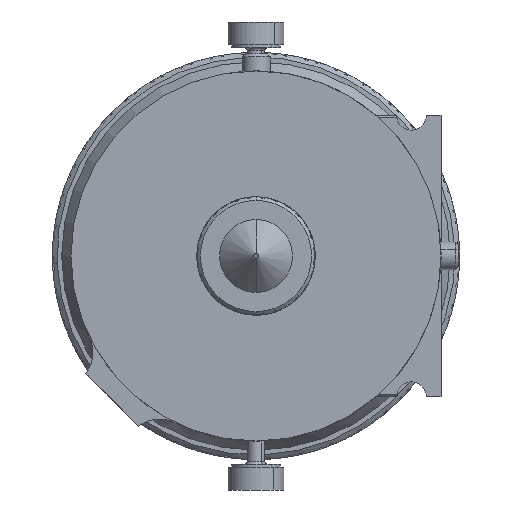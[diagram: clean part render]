
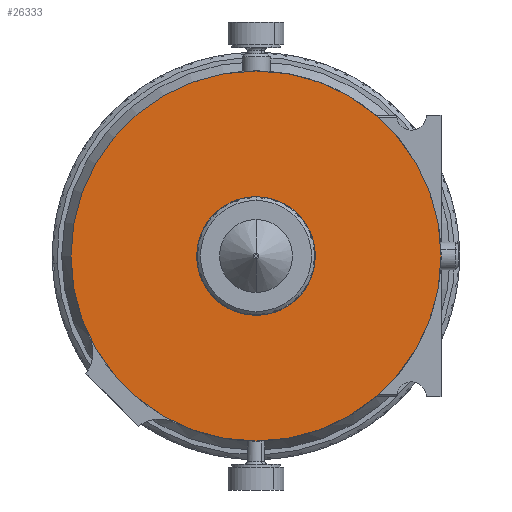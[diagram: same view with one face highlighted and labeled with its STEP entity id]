
A CAD part, front view. The second image highlights one B-rep face of the part: STEP entity #26333.
In plain terms, the highlighted planar face has unit normal (0, -1, 0).
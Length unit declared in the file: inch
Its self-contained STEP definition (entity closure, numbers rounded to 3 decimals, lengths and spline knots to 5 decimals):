
#1983 = ORIENTED_EDGE ( 'NONE', *, *, #30681, .F. ) ;
#2079 = AXIS2_PLACEMENT_3D ( 'NONE', #26689, #45398, #7988 ) ;
#3312 = DIRECTION ( 'NONE',  ( 0., 1., 0. ) ) ;
#3374 = EDGE_CURVE ( 'Defeatured_0_661+Defeatured_0_660+Defeatured_0_660+Defeatured_0_660', #8340, #10453, #29421, .T. ) ;
#5130 = ORIENTED_EDGE ( 'NONE', *, *, #49275, .F. ) ;
#5251 = DIRECTION ( 'NONE',  ( 0., 1., 0. ) ) ;
#7988 = DIRECTION ( 'NONE',  ( -1., 0., 0. ) ) ;
#8340 = VERTEX_POINT ( 'NONE', #34210 ) ;
#10453 = VERTEX_POINT ( 'NONE', #46867 ) ;
#12445 = CARTESIAN_POINT ( 'NONE',  ( -0.17263, -3.60611, 0. ) ) ;
#14300 = DIRECTION ( 'NONE',  ( 0., -1., 0. ) ) ;
#14547 = DIRECTION ( 'NONE',  ( -1., 0., 0. ) ) ;
#16909 = PLANE ( 'NONE',  #2079 ) ;
#17398 = EDGE_CURVE ( 'Defeatured_0_659+Defeatured_0_660+Defeatured_0_660+Defeatured_0_660', #29450, #19075, #27705, .T. ) ;
#19075 = VERTEX_POINT ( 'NONE', #23912 ) ;
#19356 = AXIS2_PLACEMENT_3D ( 'NONE', #12445, #3312, #26682 ) ;
#19706 = AXIS2_PLACEMENT_3D ( 'NONE', #23921, #5251, #14547 ) ;
#23912 = CARTESIAN_POINT ( 'NONE',  ( -0.17263, -3.60611, 0.3125 ) ) ;
#23921 = CARTESIAN_POINT ( 'NONE',  ( -0.17263, -3.60611, 0. ) ) ;
#24245 = DIRECTION ( 'NONE',  ( 0., 0., 1. ) ) ;
#26333 = ADVANCED_FACE ( 'Defeatured_0_660', ( #42522, #31609 ), #16909, .F. ) ;
#26682 = DIRECTION ( 'NONE',  ( -1., 0., 0. ) ) ;
#26689 = CARTESIAN_POINT ( 'NONE',  ( -0.17263, -3.60611, 0.7 ) ) ;
#27343 = EDGE_LOOP ( 'NONE', ( #1983, #54048 ) ) ;
#27374 = AXIS2_PLACEMENT_3D ( 'NONE', #42969, #47437, #24245 ) ;
#27705 = CIRCLE ( 'NONE', #27374, 0.3125 ) ;
#27766 = DIRECTION ( 'NONE',  ( 0., 0., 1. ) ) ;
#29421 = CIRCLE ( 'NONE', #19706, 1.25 ) ;
#29450 = VERTEX_POINT ( 'NONE', #40047 ) ;
#30681 = EDGE_CURVE ( 'Defeatured_0_659+Defeatured_0_660+Defeatured_0_660+Defeatured_0_660', #19075, #29450, #57086, .T. ) ;
#31609 = FACE_OUTER_BOUND ( 'NONE', #47354, .T. ) ;
#34210 = CARTESIAN_POINT ( 'NONE',  ( 1.07737, -3.60611, 0. ) ) ;
#35001 = CIRCLE ( 'NONE', #19356, 1.25 ) ;
#40047 = CARTESIAN_POINT ( 'NONE',  ( -0.17263, -3.60611, -0.3125 ) ) ;
#42400 = ORIENTED_EDGE ( 'NONE', *, *, #3374, .F. ) ;
#42522 = FACE_BOUND ( 'NONE', #27343, .T. ) ;
#42969 = CARTESIAN_POINT ( 'NONE',  ( -0.17263, -3.60611, 0. ) ) ;
#45193 = AXIS2_PLACEMENT_3D ( 'NONE', #55257, #14300, #27766 ) ;
#45398 = DIRECTION ( 'NONE',  ( 0., 1., 0. ) ) ;
#46867 = CARTESIAN_POINT ( 'NONE',  ( -1.42263, -3.60611, 0. ) ) ;
#47354 = EDGE_LOOP ( 'NONE', ( #5130, #42400 ) ) ;
#47437 = DIRECTION ( 'NONE',  ( 0., -1., 0. ) ) ;
#49275 = EDGE_CURVE ( 'Defeatured_0_661+Defeatured_0_660+Defeatured_0_660+Defeatured_0_660', #10453, #8340, #35001, .T. ) ;
#54048 = ORIENTED_EDGE ( 'NONE', *, *, #17398, .F. ) ;
#55257 = CARTESIAN_POINT ( 'NONE',  ( -0.17263, -3.60611, 0. ) ) ;
#57086 = CIRCLE ( 'NONE', #45193, 0.3125 ) ;
